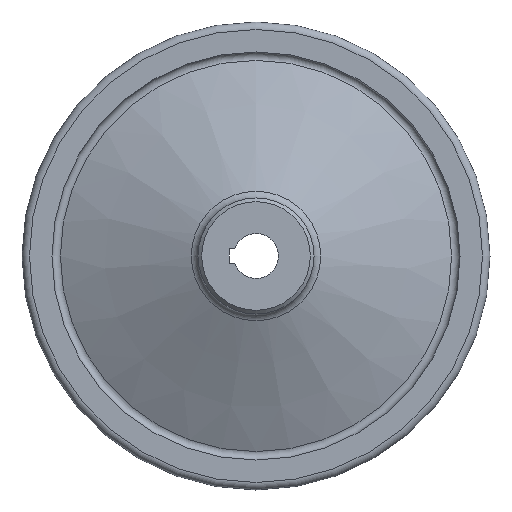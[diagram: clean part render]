
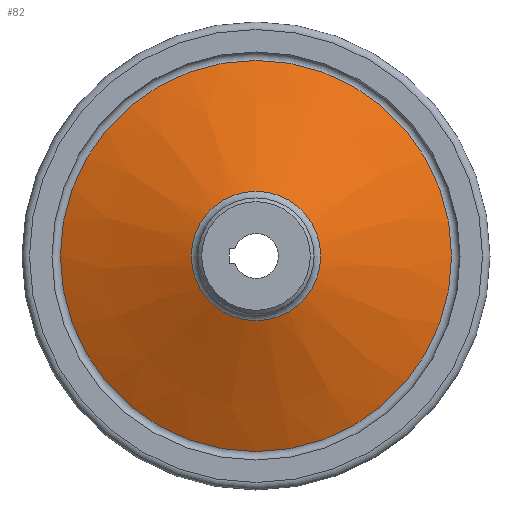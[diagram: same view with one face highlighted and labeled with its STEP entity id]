
A CAD part, left-side view. The second image highlights one B-rep face of the part: STEP entity #82.
In plain terms, the highlighted conical face has half-angle 66 degrees and reference radius 17.28 mm.
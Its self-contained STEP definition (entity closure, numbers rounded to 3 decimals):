
#82 = ADVANCED_FACE( '', ( #120, #121 ), #122, .T. );
#120 = FACE_OUTER_BOUND( '', #188, .T. );
#121 = FACE_BOUND( '', #189, .T. );
#122 = CONICAL_SURFACE( '', #190, 17.28, 1.152 );
#188 = EDGE_LOOP( '', ( #279 ) );
#189 = EDGE_LOOP( '', ( #280 ) );
#190 = AXIS2_PLACEMENT_3D( '', #281, #282, #283 );
#279 = ORIENTED_EDGE( '', *, *, #386, .T. );
#280 = ORIENTED_EDGE( '', *, *, #385, .F. );
#281 = CARTESIAN_POINT( '', ( 9.792, 0., 0. ) );
#282 = DIRECTION( '', ( 1., 0., 0. ) );
#283 = DIRECTION( '', ( 0., 0., -1. ) );
#385 = EDGE_CURVE( '', #429, #429, #430, .T. );
#386 = EDGE_CURVE( '', #431, #431, #432, .T. );
#429 = VERTEX_POINT( '', #495 );
#430 = CIRCLE( '', #496, 17.28 );
#431 = VERTEX_POINT( '', #497 );
#432 = CIRCLE( '', #498, 52.249 );
#495 = CARTESIAN_POINT( '', ( 9.792, 0., 17.28 ) );
#496 = AXIS2_PLACEMENT_3D( '', #556, #557, #558 );
#497 = CARTESIAN_POINT( '', ( 25.362, 0., 52.249 ) );
#498 = AXIS2_PLACEMENT_3D( '', #559, #560, #561 );
#556 = CARTESIAN_POINT( '', ( 9.792, 0., 0. ) );
#557 = DIRECTION( '', ( -1., 0., 0. ) );
#558 = DIRECTION( '', ( 0., 0., 1. ) );
#559 = CARTESIAN_POINT( '', ( 25.362, 0., 0. ) );
#560 = DIRECTION( '', ( -1., 0., 0. ) );
#561 = DIRECTION( '', ( 0., 0., 1. ) );
